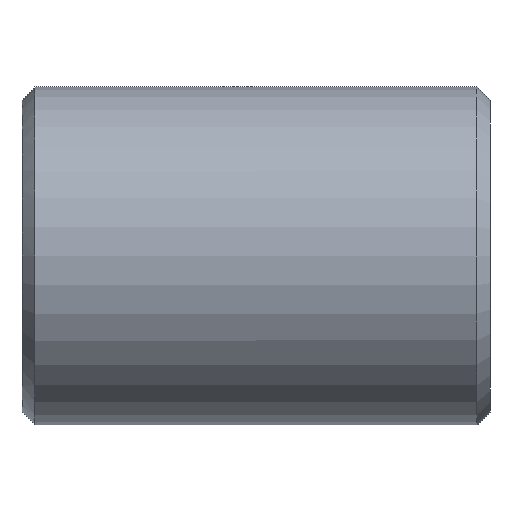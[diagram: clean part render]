
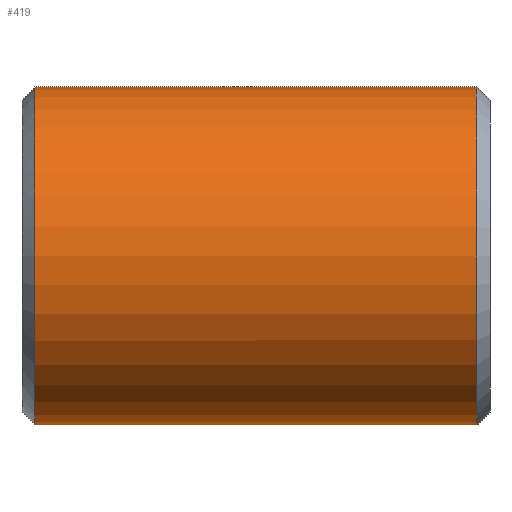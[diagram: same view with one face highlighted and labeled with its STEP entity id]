
A CAD part, front view. The second image highlights one B-rep face of the part: STEP entity #419.
In plain terms, the highlighted cylindrical face has radius 13 mm (diameter 26 mm), a partial arc.
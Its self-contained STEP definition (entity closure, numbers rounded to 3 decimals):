
#231=CARTESIAN_POINT('Vertex',(1.,0.,-13.)) ;
#238=CARTESIAN_POINT('Vertex',(1.,0.,13.)) ;
#267=CARTESIAN_POINT('Axis2P3D Location',(1.,0.,0.)) ;
#271=CARTESIAN_POINT('Vertex',(1.,-13.,0.)) ;
#274=CARTESIAN_POINT('Axis2P3D Location',(1.,0.,0.)) ;
#359=CARTESIAN_POINT('Line Origine',(36.,0.,13.)) ;
#363=CARTESIAN_POINT('Vertex',(35.,0.,13.)) ;
#377=CARTESIAN_POINT('Vertex',(35.,0.,-13.)) ;
#380=CARTESIAN_POINT('Line Origine',(36.,0.,-13.)) ;
#394=CARTESIAN_POINT('Axis2P3D Location',(36.,0.,0.)) ;
#399=CARTESIAN_POINT('Axis2P3D Location',(35.,0.,0.)) ;
#403=CARTESIAN_POINT('Vertex',(35.,-13.,0.)) ;
#406=CARTESIAN_POINT('Axis2P3D Location',(35.,0.,0.)) ;
#268=DIRECTION('Axis2P3D Direction',(1.,0.,-0.)) ;
#275=DIRECTION('Axis2P3D Direction',(1.,0.,-0.)) ;
#360=DIRECTION('Vector Direction',(-1.,0.,0.)) ;
#381=DIRECTION('Vector Direction',(-1.,0.,0.)) ;
#395=DIRECTION('Axis2P3D Direction',(-1.,-0.,-0.)) ;
#396=DIRECTION('Axis2P3D XDirection',(0.,0.,-1.)) ;
#400=DIRECTION('Axis2P3D Direction',(-1.,-0.,-0.)) ;
#407=DIRECTION('Axis2P3D Direction',(-1.,-0.,-0.)) ;
#269=AXIS2_PLACEMENT_3D('Circle Axis2P3D',#267,#268,$) ;
#276=AXIS2_PLACEMENT_3D('Circle Axis2P3D',#274,#275,$) ;
#397=AXIS2_PLACEMENT_3D('Cylinder Axis2P3D',#394,#395,#396) ;
#401=AXIS2_PLACEMENT_3D('Circle Axis2P3D',#399,#400,$) ;
#408=AXIS2_PLACEMENT_3D('Circle Axis2P3D',#406,#407,$) ;
#412=ORIENTED_EDGE('',*,*,#384,.T.) ;
#413=ORIENTED_EDGE('',*,*,#405,.F.) ;
#414=ORIENTED_EDGE('',*,*,#410,.F.) ;
#415=ORIENTED_EDGE('',*,*,#365,.T.) ;
#416=ORIENTED_EDGE('',*,*,#278,.T.) ;
#417=ORIENTED_EDGE('',*,*,#273,.T.) ;
#361=VECTOR('Line Direction',#360,1.) ;
#382=VECTOR('Line Direction',#381,1.) ;
#419=ADVANCED_FACE('352-18X36',(#418),#398,.T.) ;
#270=CIRCLE('generated circle',#269,13.) ;
#277=CIRCLE('generated circle',#276,13.) ;
#402=CIRCLE('generated circle',#401,13.) ;
#409=CIRCLE('generated circle',#408,13.) ;
#398=CYLINDRICAL_SURFACE('generated cylinder',#397,13.) ;
#273=EDGE_CURVE('',#272,#232,#270,.T.) ;
#278=EDGE_CURVE('',#239,#272,#277,.T.) ;
#365=EDGE_CURVE('',#364,#239,#362,.T.) ;
#384=EDGE_CURVE('',#232,#378,#383,.F.) ;
#405=EDGE_CURVE('',#404,#378,#402,.F.) ;
#410=EDGE_CURVE('',#364,#404,#409,.F.) ;
#411=EDGE_LOOP('',(#412,#413,#414,#415,#416,#417)) ;
#418=FACE_OUTER_BOUND('',#411,.T.) ;
#362=LINE('Line',#359,#361) ;
#383=LINE('Line',#380,#382) ;
#232=VERTEX_POINT('',#231) ;
#239=VERTEX_POINT('',#238) ;
#272=VERTEX_POINT('',#271) ;
#364=VERTEX_POINT('',#363) ;
#378=VERTEX_POINT('',#377) ;
#404=VERTEX_POINT('',#403) ;
